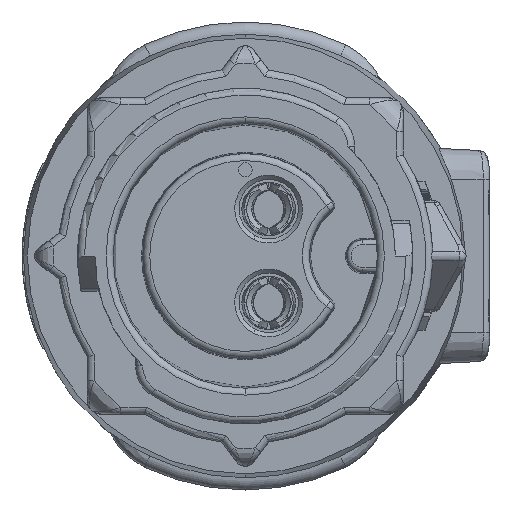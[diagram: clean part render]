
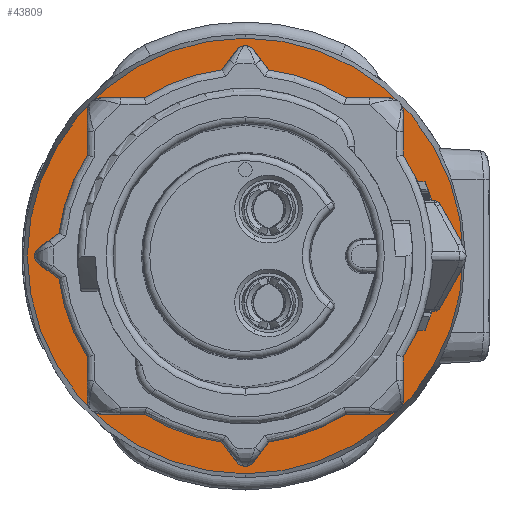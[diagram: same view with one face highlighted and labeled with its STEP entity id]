
A CAD part, left-side view. The second image highlights one B-rep face of the part: STEP entity #43809.
In plain terms, the highlighted planar face has unit normal (-1, 0, 0).
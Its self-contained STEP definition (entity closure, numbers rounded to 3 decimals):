
#12973=CARTESIAN_POINT('',(55.753,0.,0.));
#12974=DIRECTION('',(-1.,0.,0.));
#12975=DIRECTION('',(0.,0.,1.));
#12976=AXIS2_PLACEMENT_3D('',#12973,#12974,#12975);
#12978=CARTESIAN_POINT('',(55.753,0.,0.));
#12979=DIRECTION('',(1.,0.,0.));
#12980=DIRECTION('',(0.,0.,1.));
#12981=AXIS2_PLACEMENT_3D('',#12978,#12979,#12980);
#12983=CARTESIAN_POINT('',(55.753,0.,0.));
#12984=DIRECTION('',(-1.,0.,0.));
#12985=DIRECTION('',(0.,0.,-1.));
#12986=AXIS2_PLACEMENT_3D('',#12983,#12984,#12985);
#12988=CARTESIAN_POINT('',(55.753,0.,0.));
#12989=DIRECTION('',(-1.,0.,0.));
#12990=DIRECTION('',(0.,0.,1.));
#12991=AXIS2_PLACEMENT_3D('',#12988,#12989,#12990);
#26905=CARTESIAN_POINT('',(55.753,0.,9.35));
#26906=CARTESIAN_POINT('',(55.753,0.,-9.35));
#26907=VERTEX_POINT('',#26905);
#26908=VERTEX_POINT('',#26906);
#27415=CARTESIAN_POINT('',(55.753,0.,-6.2));
#27416=CARTESIAN_POINT('',(55.753,0.,6.2));
#27417=VERTEX_POINT('',#27415);
#27418=VERTEX_POINT('',#27416);
#43794=CARTESIAN_POINT('',(55.753,0.,0.));
#43795=DIRECTION('',(1.,0.,0.));
#43796=DIRECTION('',(0.,0.,-1.));
#43797=AXIS2_PLACEMENT_3D('',#43794,#43795,#43796);
#43798=PLANE('',#43797);
#43799=ORIENTED_EDGE('',*,*,#43137,.F.);
#43800=ORIENTED_EDGE('',*,*,#42994,.T.);
#43801=EDGE_LOOP('',(#43799,#43800));
#43802=FACE_OUTER_BOUND('',#43801,.F.);
#43804=ORIENTED_EDGE('',*,*,#43803,.T.);
#43806=ORIENTED_EDGE('',*,*,#43805,.T.);
#43807=EDGE_LOOP('',(#43804,#43806));
#43808=FACE_BOUND('',#43807,.F.);
#43809=ADVANCED_FACE('',(#43802,#43808),#43798,.F.);
#12977=CIRCLE('',#12976,9.35);
#12982=CIRCLE('',#12981,9.35);
#12987=CIRCLE('',#12986,6.2);
#12992=CIRCLE('',#12991,6.2);
#42994=EDGE_CURVE('',#26907,#26908,#12982,.T.);
#43137=EDGE_CURVE('',#26907,#26908,#12977,.T.);
#43803=EDGE_CURVE('',#27417,#27418,#12987,.T.);
#43805=EDGE_CURVE('',#27418,#27417,#12992,.T.);
